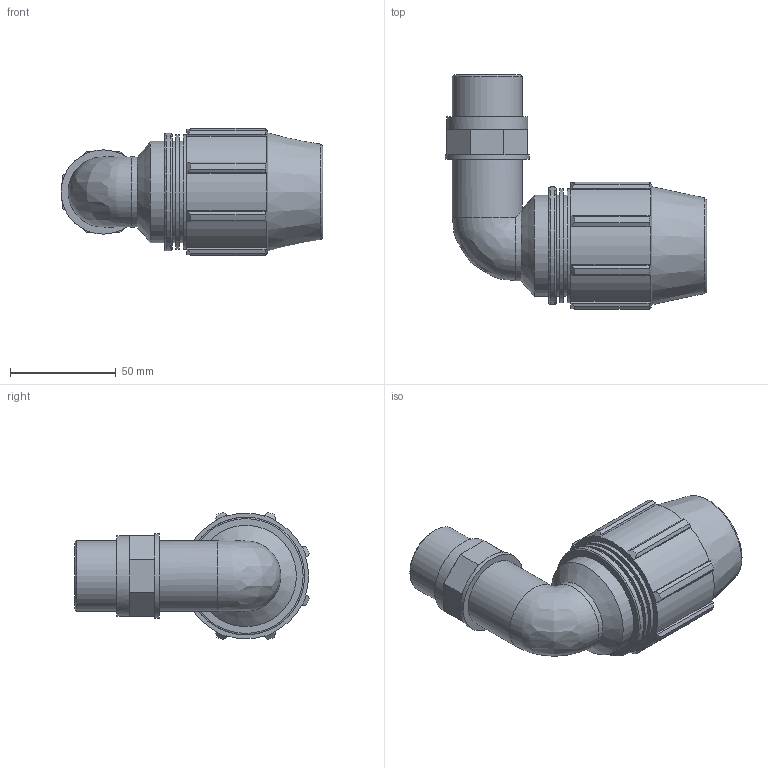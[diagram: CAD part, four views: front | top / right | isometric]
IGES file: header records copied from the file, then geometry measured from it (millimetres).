
Global section: file name: 077700032010_187700032010_0777060320100A.ipt; native system: Autodesk Inventor 2015; preprocessor: unknown; author: KIM; date: 20170622.103053; units: millimetre
Bounding box: 123.95 x 111.11 x 60.22 mm (x, y, z)
Volume: 188755.7 mm3; surface area: 47139.5 mm2
Topology: 1 solids, 1 shells, 125 faces, 320 edges, 205 vertices
Faces by surface type: plane 76, cylinder 27, cone 12, revolution 9, bspline 1
Full cylindrical faces by diameter (mm): 33.249 x2, 38.236 x1, 39.899 x1, 48 x3, 54.01 x2, 55.68 x1
